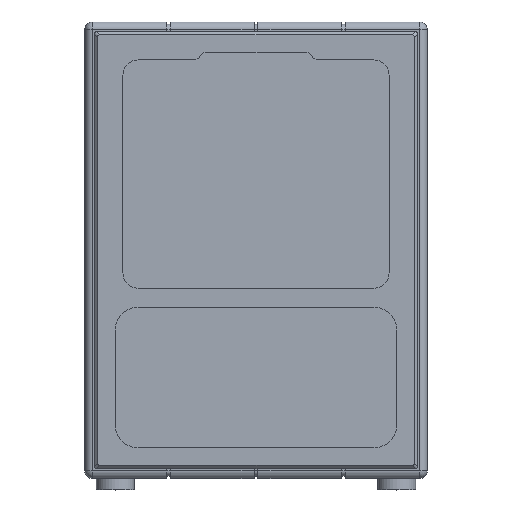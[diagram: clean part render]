
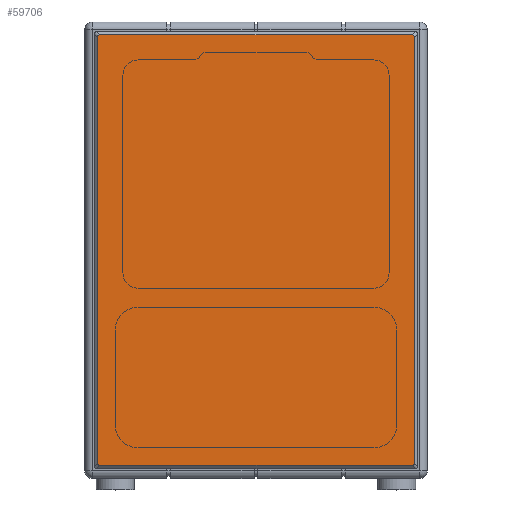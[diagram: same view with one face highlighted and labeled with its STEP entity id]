
A CAD part, top view. The second image highlights one B-rep face of the part: STEP entity #59706.
In plain terms, the highlighted planar face has unit normal (0, 0, 1).
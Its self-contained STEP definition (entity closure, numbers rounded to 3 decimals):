
#1317=ELLIPSE('',#64450,7.275,4.2);
#1320=ELLIPSE('',#64455,7.275,4.2);
#1324=ELLIPSE('',#64464,7.275,4.2);
#1326=ELLIPSE('',#64471,7.275,4.2);
#6677=LINE('',#205629,#11145);
#6684=LINE('',#205660,#11152);
#6685=LINE('',#205663,#11153);
#6692=LINE('',#205693,#11160);
#11145=VECTOR('',#78163,406.226);
#11152=VECTOR('',#78186,556.226);
#11153=VECTOR('',#78189,556.226);
#11160=VECTOR('',#78212,406.226);
#12575=PLANE('',#64476);
#17894=FACE_OUTER_BOUND('',#21677,.T.);
#21677=EDGE_LOOP('',(#55019,#55020,#55021,#55022,#55023,#55024,#55025,#55026));
#29004=VERTEX_POINT('',#205574);
#29005=VERTEX_POINT('',#205576);
#29010=VERTEX_POINT('',#205603);
#29011=VERTEX_POINT('',#205605);
#29018=VERTEX_POINT('',#205642);
#29019=VERTEX_POINT('',#205644);
#29020=VERTEX_POINT('',#205662);
#29023=VERTEX_POINT('',#205672);
#37673=EDGE_CURVE('',#29005,#29004,#1317,.T.);
#37681=EDGE_CURVE('',#29011,#29010,#1320,.T.);
#37687=EDGE_CURVE('',#29004,#29011,#6677,.T.);
#37694=EDGE_CURVE('',#29019,#29018,#1324,.T.);
#37698=EDGE_CURVE('',#29010,#29019,#6684,.T.);
#37699=EDGE_CURVE('',#29020,#29005,#6685,.T.);
#37704=EDGE_CURVE('',#29023,#29020,#1326,.T.);
#37710=EDGE_CURVE('',#29018,#29023,#6692,.T.);
#55019=ORIENTED_EDGE('',*,*,#37710,.T.);
#55020=ORIENTED_EDGE('',*,*,#37704,.T.);
#55021=ORIENTED_EDGE('',*,*,#37699,.T.);
#55022=ORIENTED_EDGE('',*,*,#37673,.T.);
#55023=ORIENTED_EDGE('',*,*,#37687,.T.);
#55024=ORIENTED_EDGE('',*,*,#37681,.T.);
#55025=ORIENTED_EDGE('',*,*,#37698,.T.);
#55026=ORIENTED_EDGE('',*,*,#37694,.T.);
#59706=ADVANCED_FACE('',(#17894),#12575,.F.);
#64450=AXIS2_PLACEMENT_3D('',#205577,#78138,#78139);
#64455=AXIS2_PLACEMENT_3D('',#205606,#78152,#78153);
#64464=AXIS2_PLACEMENT_3D('',#205645,#78178,#78179);
#64471=AXIS2_PLACEMENT_3D('',#205673,#78199,#78200);
#64476=AXIS2_PLACEMENT_3D('',#205694,#78213,#78214);
#78138=DIRECTION('center_axis',(0.,0.,
1.));
#78139=DIRECTION('ref_axis',(-0.707,0.707,0.));
#78152=DIRECTION('center_axis',(0.,0.,
1.));
#78153=DIRECTION('ref_axis',(-0.707,-0.707,0.));
#78163=DIRECTION('',(0.,-1.,0.));
#78178=DIRECTION('center_axis',(0.,0.,
1.));
#78179=DIRECTION('ref_axis',(0.707,-0.707,0.));
#78186=DIRECTION('',(1.,0.,0.));
#78189=DIRECTION('',(-1.,0.,0.));
#78199=DIRECTION('center_axis',(0.,0.,
1.));
#78200=DIRECTION('ref_axis',(0.707,0.707,0.));
#78212=DIRECTION('',(0.,1.,0.));
#78213=DIRECTION('center_axis',(0.,0.,
-1.));
#78214=DIRECTION('ref_axis',(0.,-1.,0.));
#205574=CARTESIAN_POINT('',(-283.083,205.113,223.2));
#205576=CARTESIAN_POINT('',(-280.113,208.083,223.2));
#205577=CARTESIAN_POINT('Origin',(-277.143,202.143,223.2));
#205603=CARTESIAN_POINT('',(-280.113,-208.083,223.2));
#205605=CARTESIAN_POINT('',(-283.083,-205.113,223.2));
#205606=CARTESIAN_POINT('Origin',(-277.143,-202.143,223.2));
#205629=CARTESIAN_POINT('',(-283.083,201.113,223.2));
#205642=CARTESIAN_POINT('',(283.083,-205.113,223.2));
#205644=CARTESIAN_POINT('',(280.113,-208.083,223.2));
#205645=CARTESIAN_POINT('Origin',(277.143,-202.143,223.2));
#205660=CARTESIAN_POINT('',(-280.113,-208.083,223.2));
#205662=CARTESIAN_POINT('',(280.113,208.083,223.2));
#205663=CARTESIAN_POINT('',(276.113,208.083,223.2));
#205672=CARTESIAN_POINT('',(283.083,205.113,223.2));
#205673=CARTESIAN_POINT('Origin',(277.143,202.143,223.2));
#205693=CARTESIAN_POINT('',(283.083,-201.113,223.2));
#205694=CARTESIAN_POINT('Origin',(0.,0.,
223.2));
